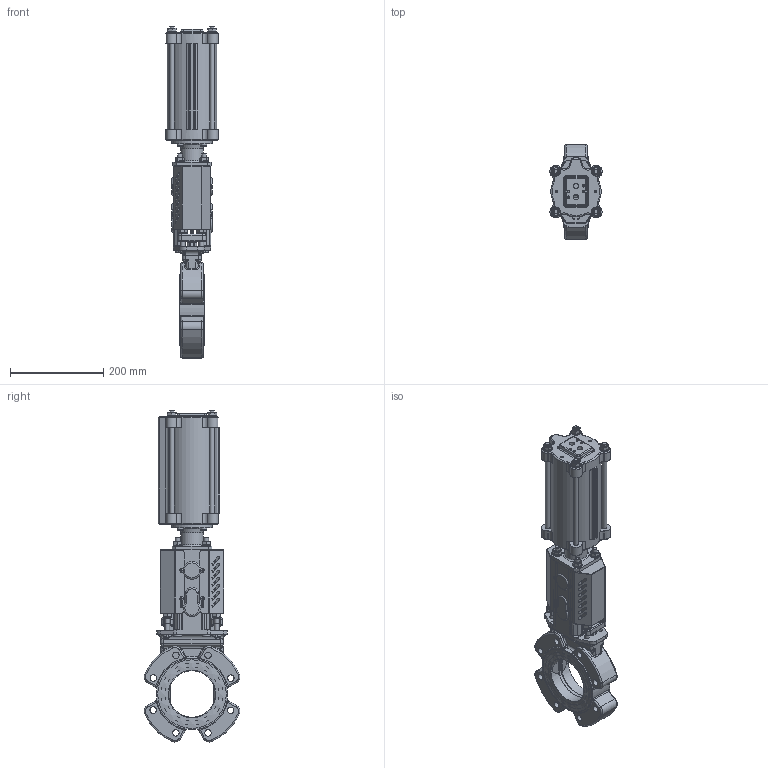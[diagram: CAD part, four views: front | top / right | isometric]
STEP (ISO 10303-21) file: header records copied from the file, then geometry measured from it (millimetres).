
FILE_DESCRIPTION(/* description */ (''),/* implementation_level */ '2;1');
FILE_NAME(/* name */ 'F:\Emir\3D-block special\WB\WB14-WFL-DN100-PN10-FRSC100-115.stp',/* time_stamp */ '2018-07-18T16:30:33+02:00',/* author */ ('emimus'),/* organization */ (''),/* preprocessor_version */ 'ST-DEVELOPER v17',/* originating_system */ 'Autodesk Inventor 2018',/* authorisation */ '');
FILE_SCHEMA (('AUTOMOTIVE_DESIGN { 1 0 10303 214 3 1 1 }'));
Products named in the file (1): WB14-WFL-DN100-PN10-FRSC100-115
Bounding box: 112.17 x 205.31 x 712.25 mm (x, y, z)
Volume: 2888637.4 mm3; surface area: 861670.5 mm2
Topology: 4 solids, 4 shells, 2674 faces, 6847 edges, 4238 vertices
Faces by surface type: plane 987, cylinder 710, bspline 378, torus 283, cone 226, sphere 90
Full cylindrical faces by diameter (mm): 3 x5, 4 x4, 4.134 x4, 4.2 x12, 4.5 x4, 4.917 x4, 6 x4, 8 x7, 8.376 x4, 9 x2, 10 x32, 10.106 x1, 10.5 x12, 11 x8, 11.445 x2, 13 x4, 13.835 x10, 14 x1, 14.376 x1, 15 x5, 20 x13, 20.15 x2, 22 x1, 24 x3, 26 x1, 26.4 x1, 28 x2, 35 x1, 40 x1, 48 x1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
Entity records: 97615 total; most frequent: CARTESIAN_POINT 34426, ORIENTED_EDGE 13534, DIRECTION 13050, EDGE_CURVE 6767, AXIS2_PLACEMENT_3D 5158, VERTEX_POINT 4238, EDGE_LOOP 2935, LINE 2734
